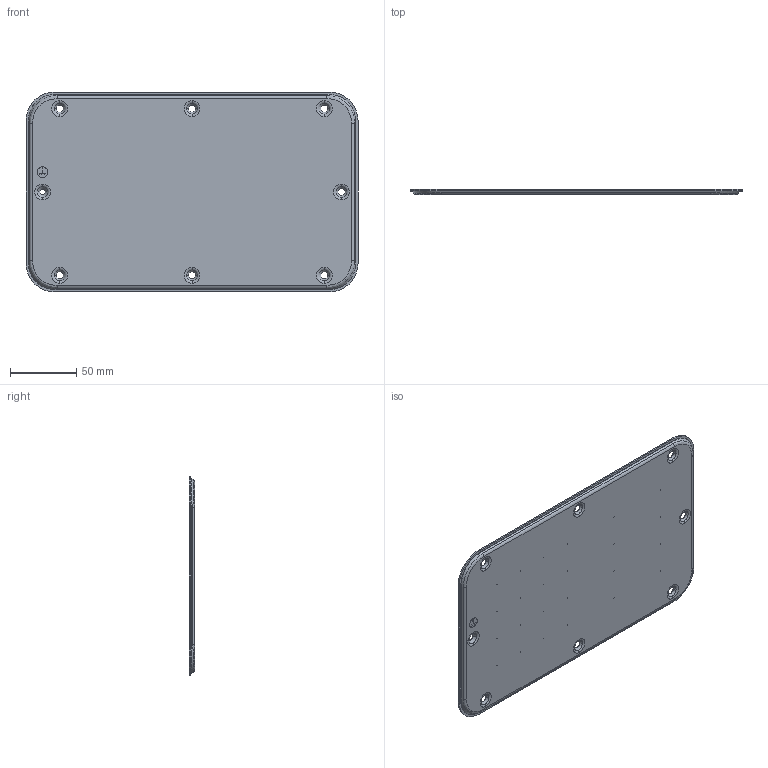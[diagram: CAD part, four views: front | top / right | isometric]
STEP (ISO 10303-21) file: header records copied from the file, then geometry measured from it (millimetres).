
FILE_DESCRIPTION (( 'STEP AP203' ), '1' );
FILE_NAME ('ECIC0003.STEP', '2020-04-07T14:12:46', ( '' ), ( '' ), 'SwSTEP 2.0', 'SolidWorks 2019', '' );
FILE_SCHEMA (( 'CONFIG_CONTROL_DESIGN' ));
Length unit declared in the file: millimetre
Products named in the file (1): ECIC0003
Bounding box: 251 x 4 x 151 mm (x, y, z)
Volume: 46034.1 mm3; surface area: 77918.5 mm2
Topology: 1 solids, 1 shells, 266 faces, 620 edges, 392 vertices
Faces by surface type: cylinder 94, plane 68, cone 48, torus 32, bspline 24
Entity records: 8247 total; most frequent: CARTESIAN_POINT 1979, DIRECTION 1398, ORIENTED_EDGE 1240, EDGE_CURVE 620, AXIS2_PLACEMENT_3D 583, VERTEX_POINT 392, CIRCLE 340, EDGE_LOOP 318
